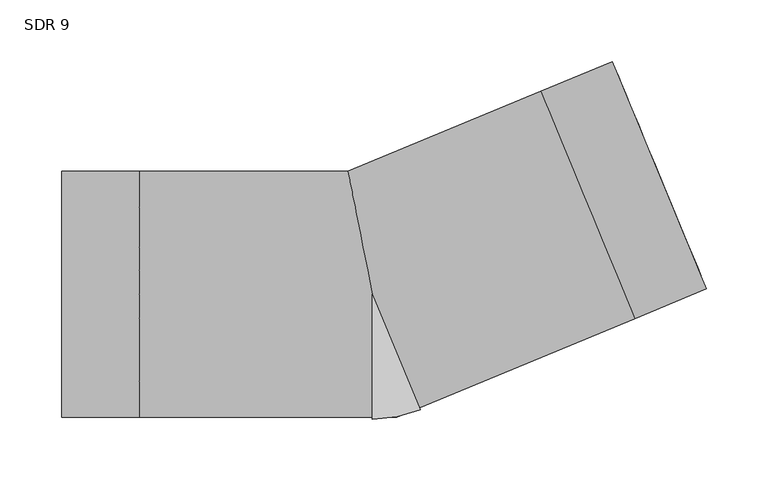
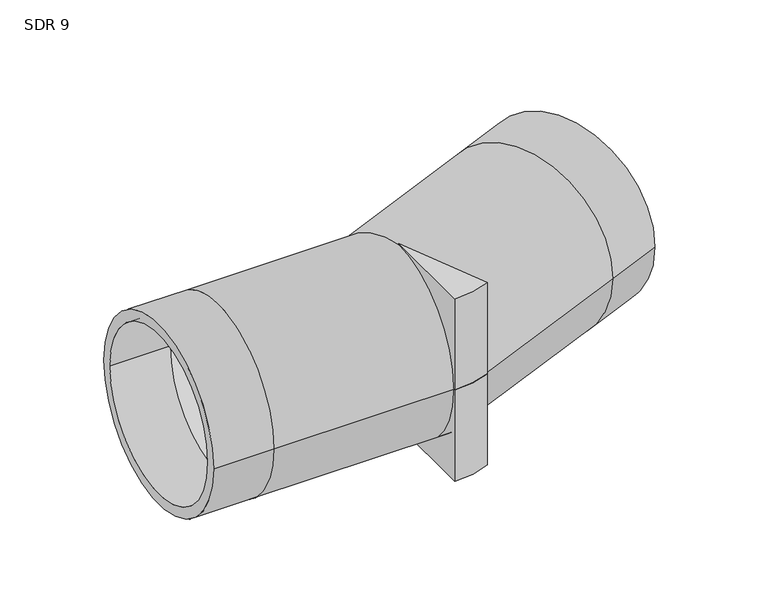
"""IFC4 building model written with IfcOpenShell, lengths in millimetres: pipe fitting geometry, Aquatherm - Elbow Blue BW Segmented : SDR 9."""

from ifc_helpers import new_model, si_unit, point, frame, origin, origin_with_axes, origin_2d, place, context, project, spatial, polyline, circle_curve, ellipse_curve, trimmed, segment, composite_curve, outline, extrude, source, transform, mapped, element, save
from ifc_brep_helpers import plane_surface, cylinder_surface, revolved_surface, advanced_brep


def sdr_9_7f141453(model_context):
    return source(origin(), model_context, "Body", "SolidModel", [
        extrude(outline(composite_curve([segment(polyline([(0.0, -101.6), (0.0, 0.0), (38.8806367, -93.8661605)]), True, "CONTINUOUS"), segment(trimmed(circle_curve(origin_2d(), 101.6), [point((38.8806367, -93.8661605))], [point((0.0, -101.6))], False, "CARTESIAN"), True, "CONTINUOUS")], self_intersect=False)), frame((0.0, 0.0, -101.6), z_axis=(0.0, 0.0, 1.0), x_axis=(1.0, 0.0, 0.0)), (0.0, 0.0, 1.0), 101.6),
        extrude(outline(composite_curve([segment(trimmed(circle_curve(origin_2d(), 101.6), [point((38.8806367, -93.8661605))], [point((0.0, -101.6))], False, "CARTESIAN"), True, "CONTINUOUS"), segment(polyline([(0.0, -101.6), (0.0, 0.0), (38.8806367, -93.8661605)]), True, "CONTINUOUS")], self_intersect=False)), origin_with_axes(), (0.0, 0.0, 1.0), 101.6),
        advanced_brep(
        [(-252.476, -99.949, 0.0), (-252.476, 99.949, 0.0), (-252.476, -88.5921673, 0.0), (-252.476, 88.5921673, 0.0), (271.5062352, 4.2775469, 0.0), (195.0085825, 188.9592177, 0.0), (267.1601635, 14.7698921, 0.0), (199.3546542, 178.4668724, 0.0), (-189.357, -99.949, 0.0), (-189.357, 99.949, 0.0), (-189.357, -88.5921673, 0.0), (-189.357, 88.5921673, 0.0), (19.8810922, -99.949, 0.0), (-19.8810922, 99.949, 0.0), (17.6220777, -88.5921673, 0.0), (-17.6220777, 88.5921673, 0.0), (213.191883, -19.8770487, 0.0), (136.6942303, 164.8046221, 0.0), (208.8458113, -9.3847034, 0.0), (141.040302, 154.3122768, 0.0)],
        [
            (0, 1, circle_curve(frame((-252.476, 0.0, 0.0), z_axis=(-1.0, 0.0, 0.0), x_axis=(0.0, 1.0, 0.0)), 99.949)),
            (1, 0, circle_curve(frame((-252.476, 0.0, 0.0), z_axis=(-1.0, 0.0, 0.0), x_axis=(0.0, 1.0, 0.0)), 99.949)),
            (2, 3, circle_curve(frame((-252.476, 0.0, 0.0), z_axis=(1.0, 0.0, 0.0), x_axis=(0.0, 1.0, 0.0)), 88.5921673)),
            (3, 2, circle_curve(frame((-252.476, 0.0, 0.0), z_axis=(1.0, 0.0, 0.0), x_axis=(0.0, 1.0, 0.0)), 88.5921673)),
            (4, 5, circle_curve(frame((233.2574089, 96.6183823, 0.0), z_axis=(0.9238795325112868, 0.38268343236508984, 0.0), x_axis=(-0.38268343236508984, 0.9238795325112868, 0.0)), 99.949)),
            (5, 4, circle_curve(frame((233.2574089, 96.6183823, 0.0), z_axis=(0.9238795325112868, 0.38268343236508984, 0.0), x_axis=(-0.38268343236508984, 0.9238795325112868, 0.0)), 99.949)),
            (6, 7, circle_curve(frame((233.2574089, 96.6183823, 0.0), z_axis=(-0.9238795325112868, -0.38268343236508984, 0.0), x_axis=(-0.38268343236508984, 0.9238795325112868, 0.0)), 88.5921673)),
            (7, 6, circle_curve(frame((233.2574089, 96.6183823, 0.0), z_axis=(-0.9238795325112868, -0.38268343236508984, 0.0), x_axis=(-0.38268343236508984, 0.9238795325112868, 0.0)), 88.5921673)),
            (0, 8),
            (8, 9, circle_curve(frame((-189.357, 0.0, 0.0), z_axis=(-1.0, 0.0, 0.0), x_axis=(0.0, 1.0, 0.0)), 99.949)),
            (9, 1),
            (9, 8, circle_curve(frame((-189.357, 0.0, 0.0), z_axis=(-1.0, 0.0, 0.0), x_axis=(0.0, 1.0, 0.0)), 99.949)),
            (2, 10),
            (10, 11, circle_curve(frame((-189.357, 0.0, 0.0), z_axis=(1.0, 0.0, 0.0), x_axis=(0.0, 1.0, 0.0)), 88.5921673)),
            (11, 3),
            (11, 10, circle_curve(frame((-189.357, 0.0, 0.0), z_axis=(1.0, 0.0, 0.0), x_axis=(0.0, 1.0, 0.0)), 88.5921673)),
            (8, 12),
            (12, 13, ellipse_curve(frame((0.0, 0.0, 0.0), z_axis=(-0.9807852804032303, -0.19509032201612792, 0.0), x_axis=(-0.19509032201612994, 0.9807852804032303, 0.0)), 101.9071167, 99.949)),
            (13, 9),
            (13, 12, ellipse_curve(frame((0.0, 0.0, 0.0), z_axis=(-0.9807852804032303, -0.19509032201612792, 0.0), x_axis=(-0.19509032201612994, 0.9807852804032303, 0.0)), 101.9071167, 99.949)),
            (10, 14),
            (14, 15, ellipse_curve(frame((0.0, 0.0, 0.0), z_axis=(0.9807852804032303, 0.19509032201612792, 0.0), x_axis=(0.19509032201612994, -0.9807852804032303, 0.0)), 90.3277905, 88.5921673)),
            (15, 11),
            (15, 14, ellipse_curve(frame((0.0, 0.0, 0.0), z_axis=(0.9807852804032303, 0.19509032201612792, 0.0), x_axis=(0.19509032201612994, -0.9807852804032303, 0.0)), 90.3277905, 88.5921673)),
            (12, 16),
            (16, 17, circle_curve(frame((174.9430566, 72.4637867, 0.0), z_axis=(-0.9238795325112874, -0.3826834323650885, 0.0), x_axis=(-0.3826834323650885, 0.9238795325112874, 0.0)), 99.949)),
            (17, 13),
            (17, 16, circle_curve(frame((174.9430566, 72.4637867, 0.0), z_axis=(-0.9238795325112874, -0.3826834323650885, 0.0), x_axis=(-0.3826834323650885, 0.9238795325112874, 0.0)), 99.949)),
            (14, 18),
            (18, 19, circle_curve(frame((174.9430566, 72.4637867, 0.0), z_axis=(0.9238795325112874, 0.3826834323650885, 0.0), x_axis=(-0.3826834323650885, 0.9238795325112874, 0.0)), 88.5921673)),
            (19, 15),
            (19, 18, circle_curve(frame((174.9430566, 72.4637867, 0.0), z_axis=(0.9238795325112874, 0.3826834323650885, 0.0), x_axis=(-0.3826834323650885, 0.9238795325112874, 0.0)), 88.5921673)),
            (16, 4),
            (5, 17),
            (18, 6),
            (7, 19),
        ],
        [
            plane_surface(frame((-252.476, 0.0, 0.0), z_axis=(-1.0, 0.0, 0.0), x_axis=(0.0, 0.0, 1.0))),
            plane_surface(frame((233.2574089, 96.6183823, 0.0), z_axis=(0.9238795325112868, 0.38268343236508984, 0.0), x_axis=(0.0, 0.0, 1.0))),
            cylinder_surface(frame((-252.476, 0.0, 0.0), z_axis=(-1.0, 0.0, 0.0), x_axis=(0.0, 1.0, 0.0)), 99.949),
            revolved_surface(polyline([(-189.357, 88.5921673, 0.0), (-252.476, 88.5921673, 0.0)]), (-252.476, 0.0, 0.0), (1.0, 0.0, 0.0)),
            cylinder_surface(frame((-189.357, 0.0, 0.0), z_axis=(-1.0, 0.0, 0.0), x_axis=(0.0, 1.0, 0.0)), 99.949),
            revolved_surface(polyline([(17.62207773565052, 88.5921673, 0.0), (-189.357, 88.5921673, 0.0)]), (-189.357, 0.0, 0.0), (1.0, 0.0, 0.0)),
            cylinder_surface(frame((0.0, 0.0, 0.0), z_axis=(-0.9238795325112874, -0.3826834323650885, 0.0), x_axis=(-0.3826834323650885, 0.9238795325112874, 0.0)), 99.949),
            revolved_surface(polyline([(141.04030199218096, 154.31227681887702, 0.0), (-50.18343162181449, 75.1048129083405, 0.0)]), (0.0, 0.0, 0.0), (0.9238795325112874, 0.3826834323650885, 0.0)),
            cylinder_surface(frame((174.9430566, 72.4637867, 0.0), z_axis=(-0.9238795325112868, -0.38268343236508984, 0.0), x_axis=(-0.38268343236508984, 0.9238795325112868, 0.0)), 99.949),
            revolved_surface(polyline([(199.35465423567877, 178.46687241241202, 0.0), (141.0403019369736, 154.31227680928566, 0.0)]), (174.9430566, 72.4637867, 0.0), (0.9238795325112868, 0.38268343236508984, 0.0)),
        ],
        [
            (0, [[1, 2], [3, 4]]),
            (1, [[5, 6], [7, 8]]),
            (2, [[-1, 9, 10, 11]]),
            (2, [[-2, -11, 12, -9]]),
            (3, [[-3, 13, 14, 15]]),
            (3, [[-4, -15, 16, -13]]),
            (4, [[-10, 17, 18, 19]]),
            (4, [[-12, -19, 20, -17]]),
            (5, [[-14, 21, 22, 23]]),
            (5, [[-16, -23, 24, -21]]),
            (6, [[-18, 25, 26, 27]]),
            (6, [[-20, -27, 28, -25]]),
            (7, [[-22, 29, 30, 31]]),
            (7, [[-24, -31, 32, -29]]),
            (8, [[-26, 33, -6, 34]]),
            (8, [[-28, -34, -5, -33]]),
            (9, [[-30, 35, -8, 36]]),
            (9, [[-32, -36, -7, -35]]),
        ],
    ),
    ])


if __name__ == "__main__":
    model = new_model("IFC4")
    model_context = context("Model", 3, world=origin())
    ifc_project = project(units=[si_unit("LENGTHUNIT", "METRE", prefix="MILLI")], contexts=[model_context])
    site = spatial("IfcSite", under=ifc_project)
    building = spatial("IfcBuilding", under=site)
    placement = place(None, origin())
    sdr_9_shape = sdr_9_7f141453(model_context)
    element("IfcPipeFitting", 1, ObjectType="Aquatherm - Elbow Blue BW Segmented : SDR 9", at=placement, inside=building, context=model_context, shape_type="MappedRepresentation", body=[
        mapped(sdr_9_shape, transform((0.0, 0.0, 0.0), x_axis=(1.0, 0.0, 0.0), y_axis=(0.0, 1.0, 0.0), z_axis=(0.0, 0.0, 1.0))),
    ])
    save(model, "model.ifc")
